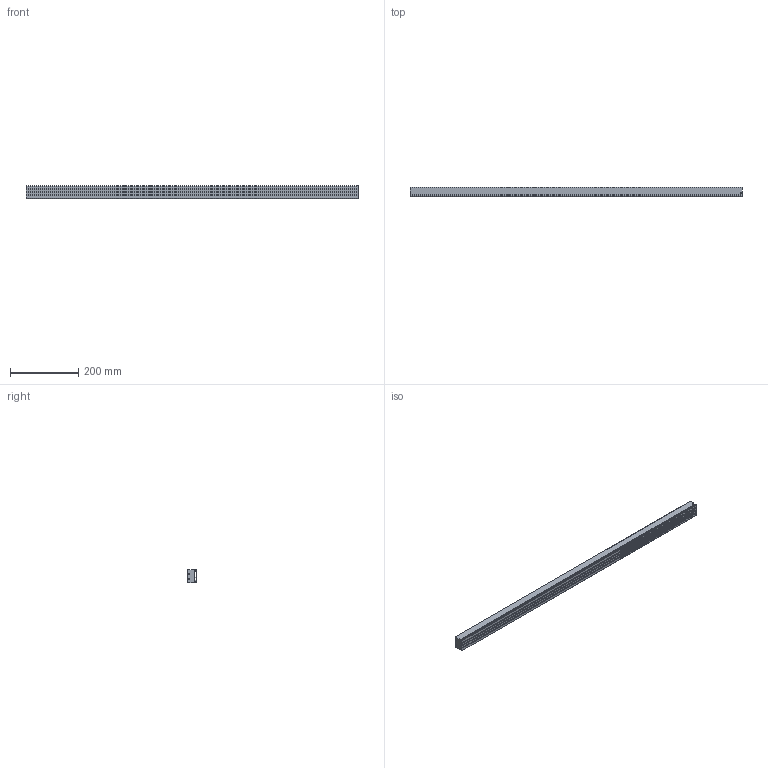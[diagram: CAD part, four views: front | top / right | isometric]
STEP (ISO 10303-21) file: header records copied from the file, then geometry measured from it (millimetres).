
FILE_DESCRIPTION (( 'STEP AP203' ), '1' );
FILE_NAME ('LRD-B6-970.STEP', '2022-08-25T06:13:35', ( 'TNT' ), ( '' ), 'SwSTEP 2.0', 'SolidWorks 2018', '' );
FILE_SCHEMA (( 'CONFIG_CONTROL_DESIGN' ));
Length unit declared in the file: millimetre
Products named in the file (1): LRD-B6-970
Bounding box: 970 x 27.7 x 39.1 mm (x, y, z)
Volume: 824021.5 mm3; surface area: 210366.2 mm2
Topology: 1 solids, 1 shells, 74 faces, 202 edges, 128 vertices
Faces by surface type: plane 56, cylinder 10, cone 8
Entity records: 2323 total; most frequent: CARTESIAN_POINT 397, ORIENTED_EDGE 388, DIRECTION 364, EDGE_CURVE 194, LINE 174, VECTOR 174, VERTEX_POINT 128, AXIS2_PLACEMENT_3D 95
